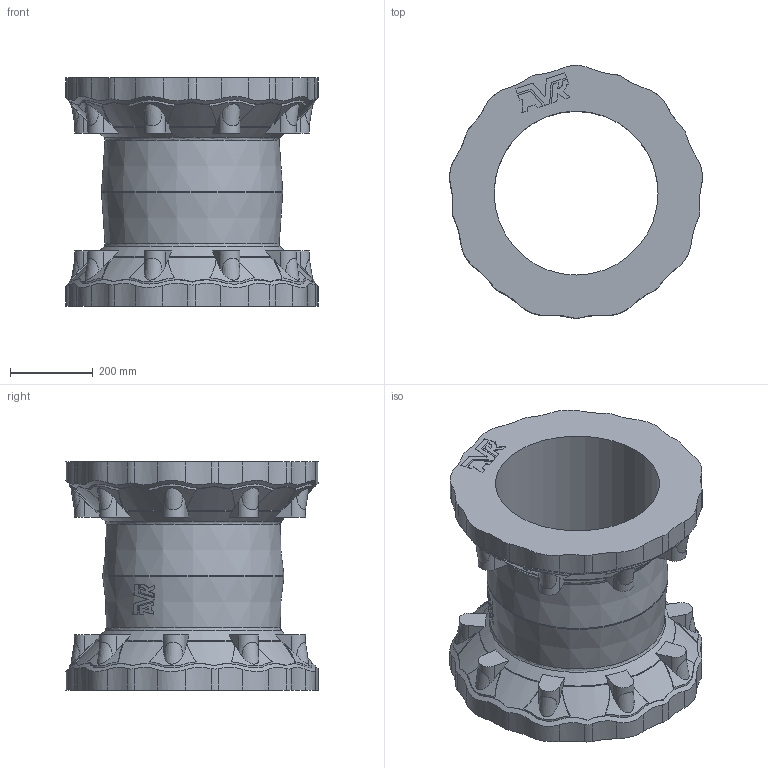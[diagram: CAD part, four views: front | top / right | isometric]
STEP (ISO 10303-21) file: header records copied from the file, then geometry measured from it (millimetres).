
FILE_DESCRIPTION (( 'STEP AP203' ), '1' );
FILE_NAME ('O_631_00_DN350_AA0.step', '2018-07-03T05:39:45', ( 'Windows User' ), ( 'AVK' ), 'SwSTEP 2.0', 'SolidWorks 2012', '' );
FILE_SCHEMA (( 'CONFIG_CONTROL_DESIGN' ));
Length unit declared in the file: millimetre
Products named in the file (1): O_631_00_DN350_AA0
Bounding box: 610.66 x 610.87 x 552.59 mm (x, y, z)
Volume: 40538351 mm3; surface area: 2088737.5 mm2
Topology: 1 solids, 1 shells, 503 faces, 1466 edges, 975 vertices
Faces by surface type: cylinder 273, plane 161, cone 48, bspline 18, torus 3
Full cylindrical faces by diameter (mm): 396 x1
Entity records: 24044 total; most frequent: CARTESIAN_POINT 11621, ORIENTED_EDGE 2890, DIRECTION 2183, EDGE_CURVE 1445, VERTEX_POINT 966, AXIS2_PLACEMENT_3D 788, VECTOR 607, LINE 607
